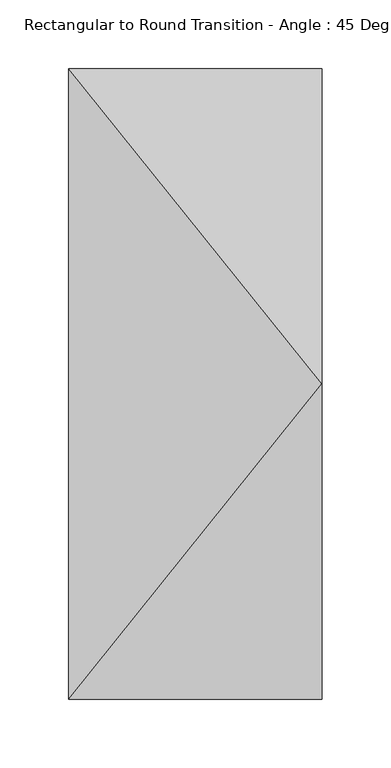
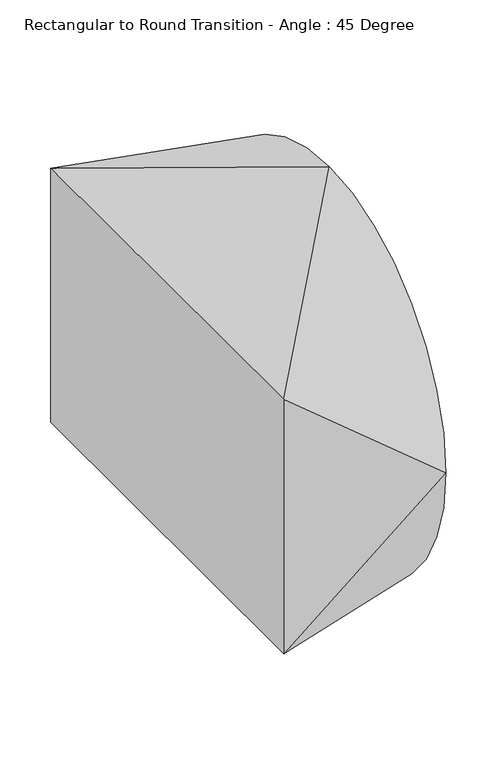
"""IFC4 building model written with IfcOpenShell, lengths in millimetres: duct fitting geometry, Rectangular to Round Transition - Angle : 45 Degree."""

from ifc_helpers import new_model, si_unit, frame, origin, place, context, project, spatial, circle_curve, source, transform, mapped, element, save
from ifc_brep_helpers import plane_surface, spline_surface, advanced_brep


def rectangular_to_round_transition_angle_45_degree_54bfa8bb(model_context):
    return source(origin(), model_context, "Body", "AdvancedBrep", [
        advanced_brep(
        [(183.9630687, 0.0, 228.5680657), (183.9630687, -228.6, -0.0319343), (183.9630687, 0.0, -228.6319343), (183.9630687, 228.6, -0.0319343), (0.0, -228.6, 152.4), (0.0, 228.6, 152.4), (0.0, 228.6, -152.4), (0.0, -228.6, -152.4)],
        [
            (0, 1, circle_curve(frame((183.9630687, 0.0, -0.0319343), z_axis=(1.0, 0.0, 0.0), x_axis=(0.0, 1.0, 0.0)), 228.6)),
            (1, 2, circle_curve(frame((183.9630687, 0.0, -0.0319343), z_axis=(1.0, 0.0, 0.0), x_axis=(0.0, 1.0, 0.0)), 228.6)),
            (2, 3, circle_curve(frame((183.9630687, 0.0, -0.0319343), z_axis=(1.0, 0.0, 0.0), x_axis=(0.0, 1.0, 0.0)), 228.6)),
            (3, 0, circle_curve(frame((183.9630687, 0.0, -0.0319343), z_axis=(1.0, 0.0, 0.0), x_axis=(0.0, 1.0, 0.0)), 228.6)),
            (4, 5),
            (5, 6),
            (6, 7),
            (7, 4),
            (0, 4),
            (4, 1),
            (7, 1),
            (7, 2),
            (6, 2),
            (6, 3),
            (5, 3),
            (5, 0),
        ],
        [
            plane_surface(frame((183.9630687, 0.0, -0.0319343), z_axis=(1.0, 0.0, 0.0), x_axis=(0.0, 0.0, -1.0))),
            plane_surface(frame((0.0, 0.0, 0.0), z_axis=(-1.0, 0.0, 0.0), x_axis=(0.0, 0.0, -1.0))),
            spline_surface(2, 1, [[(0.0, -228.6, 152.4), (183.9630687, 0.0, 228.5680657)], [(0.0, -228.6, 152.4), (183.9630687, -228.6, 228.5680657)], [(0.0, -228.6, 152.4), (183.9630687, -228.6, -0.0319343)]], [3, 3], [2, 2], [0.0, 1.0], [0.0, 1.0], weights=[[1.0, 1.0], [0.7071067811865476, 0.7071067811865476], [1.0, 1.0]]),
            plane_surface(frame((0.0, -228.6, 0.0), z_axis=(0.0, -1.0, 0.0), x_axis=(0.0, 0.0, -1.0))),
            spline_surface(2, 1, [[(0.0, -228.6, -152.4), (183.9630687, -228.6, -0.0319343)], [(0.0, -228.6, -152.4), (183.9630687, -228.59999999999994, -228.63193429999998)], [(0.0, -228.6, -152.4), (183.9630687, 0.0, -228.6319343)]], [3, 3], [2, 2], [0.0, 1.0], [0.0, 1.0], weights=[[1.0, 1.0], [0.7071067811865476, 0.7071067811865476], [1.0, 1.0]]),
            plane_surface(frame((0.0, 0.0, -152.4), z_axis=(-0.38282031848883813, 0.0, -0.9238228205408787), x_axis=(0.0, 1.0, 0.0))),
            spline_surface(2, 1, [[(0.0, 228.6, -152.4), (183.9630687, 0.0, -228.6319343)], [(0.0, 228.6, -152.4), (183.9630687, 228.60000000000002, -228.63193430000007)], [(0.0, 228.6, -152.4), (183.9630687, 228.6, -0.0319343)]], [3, 3], [2, 2], [0.0, 1.0], [0.0, 1.0], weights=[[1.0, 1.0], [0.7071067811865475, 0.7071067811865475], [1.0, 1.0]]),
            plane_surface(frame((0.0, 228.6, 0.0), z_axis=(0.0, 1.0, 0.0), x_axis=(0.0, 0.0, 1.0))),
            spline_surface(2, 1, [[(0.0, 228.6, 152.4), (183.9630687, 228.6, -0.0319343)], [(0.0, 228.6, 152.4), (183.9630687, 228.6, 228.5680657)], [(0.0, 228.6, 152.4), (183.9630687, 0.0, 228.5680657)]], [3, 3], [2, 2], [0.0, 1.0], [0.0, 1.0], weights=[[1.0, 1.0], [0.7071067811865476, 0.7071067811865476], [1.0, 1.0]]),
            plane_surface(frame((0.0, 0.0, 152.4), z_axis=(-0.382546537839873, 0.0, 0.9239362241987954), x_axis=(0.0, -1.0, 0.0))),
        ],
        [
            (0, [[1, 2, 3, 4]]),
            (1, [[5, 6, 7, 8]]),
            (2, [[-1, 9, 10]]),
            (3, [[-8, 11, -10]]),
            (4, [[-2, -11, 12]]),
            (5, [[-7, 13, -12]]),
            (6, [[-3, -13, 14]]),
            (7, [[-6, 15, -14]]),
            (8, [[-4, -15, 16]]),
            (9, [[-5, -9, -16]]),
        ],
    ),
    ])


if __name__ == "__main__":
    model = new_model("IFC4")
    model_context = context("Model", 3, world=origin())
    ifc_project = project(units=[si_unit("LENGTHUNIT", "METRE", prefix="MILLI")], contexts=[model_context])
    site = spatial("IfcSite", under=ifc_project)
    building = spatial("IfcBuilding", under=site)
    placement = place(None, origin())
    rectangular_to_round_transition_angle_45_degree_shape = rectangular_to_round_transition_angle_45_degree_54bfa8bb(model_context)
    element("IfcDuctFitting", 1, ObjectType="Rectangular to Round Transition - Angle : 45 Degree", at=placement, inside=building, context=model_context, shape_type="MappedRepresentation", body=[
        mapped(rectangular_to_round_transition_angle_45_degree_shape, transform((0.0, 0.0, 0.0), x_axis=(1.0, 0.0, 0.0), y_axis=(0.0, 1.0, 0.0), z_axis=(0.0, 0.0, 1.0))),
    ])
    save(model, "model.ifc")
